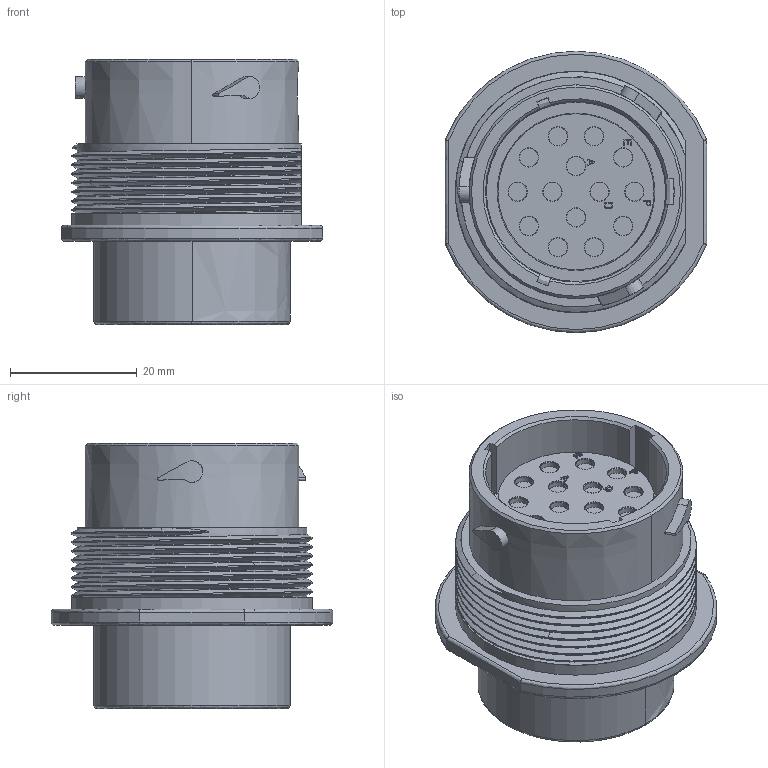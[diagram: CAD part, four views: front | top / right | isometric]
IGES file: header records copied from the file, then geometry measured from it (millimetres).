
Start section:  PTC IGES file: c-hdp24-18-14sn-99-3d.igs
Global section: file name: c-hdp24-18-14sn-99-3d.igs; native system: Pro/ENGINEER by Parametric Technology Corporation; preprocessor: 2011490; author: workeradm; organization: Unknown; units: millimetre
Bounding box: 41.27 x 44.45 x 41.86 mm (x, y, z)
Surface area: 11280.1 mm2 (no closed solid volume)
Topology: 0 solids, 0 shells, 410 faces, 1876 edges, 1875 vertices
Faces by surface type: revolution 230, bspline 180
